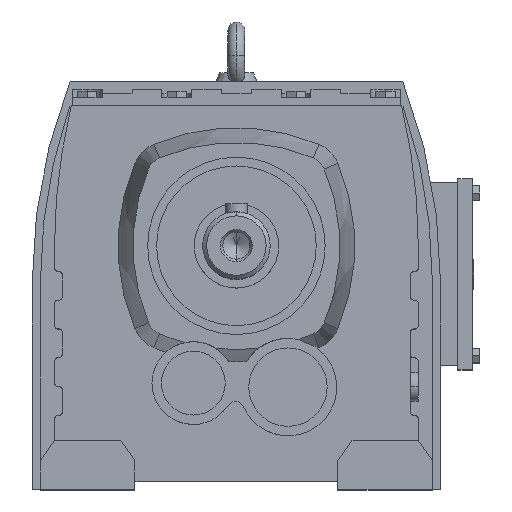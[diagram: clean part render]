
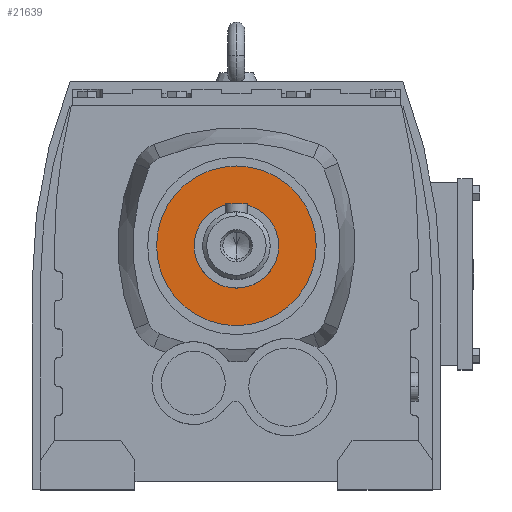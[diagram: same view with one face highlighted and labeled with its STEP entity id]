
A CAD part, top view. The second image highlights one B-rep face of the part: STEP entity #21639.
In plain terms, the highlighted planar face has unit normal (0, 0, 1).
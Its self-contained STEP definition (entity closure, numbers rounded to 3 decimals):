
#17251 = CYLINDRICAL_SURFACE('',#17252,29.531);
#17252 = AXIS2_PLACEMENT_3D('',#17253,#17254,#17255);
#17253 = CARTESIAN_POINT('',(0.,10.1,201.));
#17254 = DIRECTION('',(0.,0.,1.));
#17255 = DIRECTION('',(0.,-1.,0.));
#17281 = CYLINDRICAL_SURFACE('',#17282,29.531);
#17282 = AXIS2_PLACEMENT_3D('',#17283,#17284,#17285);
#17283 = CARTESIAN_POINT('',(0.,10.1,201.));
#17284 = DIRECTION('',(0.,0.,1.));
#17285 = DIRECTION('',(0.,-1.,0.));
#20769 = VERTEX_POINT('',#20770);
#20770 = CARTESIAN_POINT('',(0.,39.631,146.));
#20791 = VERTEX_POINT('',#20792);
#20792 = CARTESIAN_POINT('',(0.,-19.431,146.));
#20811 = EDGE_CURVE('',#20769,#20791,#20812,.T.);
#20812 = SURFACE_CURVE('',#20813,(#20818,#20824),.PCURVE_S1.);
#20813 = CIRCLE('',#20814,29.531);
#20814 = AXIS2_PLACEMENT_3D('',#20815,#20816,#20817);
#20815 = CARTESIAN_POINT('',(0.,10.1,146.));
#20816 = DIRECTION('',(0.,0.,-1.));
#20817 = DIRECTION('',(-1.,0.,0.));
#20818 = PCURVE('',#17251,#20819);
#20819 = DEFINITIONAL_REPRESENTATION('',(#20820),#20823);
#20820 = B_SPLINE_CURVE_WITH_KNOTS('',1,(#20821,#20822),.UNSPECIFIED.,
  .F.,.F.,(2,2),(1.571,4.712),
  .PIECEWISE_BEZIER_KNOTS.);
#20821 = CARTESIAN_POINT('',(3.142,-55.));
#20822 = CARTESIAN_POINT('',(0.,-55.));
#20823 = ( GEOMETRIC_REPRESENTATION_CONTEXT(2) 
PARAMETRIC_REPRESENTATION_CONTEXT() REPRESENTATION_CONTEXT('2D SPACE',''
  ) );
#20824 = PCURVE('',#20825,#20830);
#20825 = PLANE('',#20826);
#20826 = AXIS2_PLACEMENT_3D('',#20827,#20828,#20829);
#20827 = CARTESIAN_POINT('',(-12.739,5.339,146.));
#20828 = DIRECTION('',(0.,0.,-1.));
#20829 = DIRECTION('',(-1.,0.,0.));
#20830 = DEFINITIONAL_REPRESENTATION('',(#20831),#20835);
#20831 = CIRCLE('',#20832,29.531);
#20832 = AXIS2_PLACEMENT_2D('',#20833,#20834);
#20833 = CARTESIAN_POINT('',(-12.739,4.761));
#20834 = DIRECTION('',(1.,0.));
#20835 = ( GEOMETRIC_REPRESENTATION_CONTEXT(2) 
PARAMETRIC_REPRESENTATION_CONTEXT() REPRESENTATION_CONTEXT('2D SPACE',''
  ) );
#20840 = EDGE_CURVE('',#20791,#20769,#20841,.T.);
#20841 = SURFACE_CURVE('',#20842,(#20847,#20853),.PCURVE_S1.);
#20842 = CIRCLE('',#20843,29.531);
#20843 = AXIS2_PLACEMENT_3D('',#20844,#20845,#20846);
#20844 = CARTESIAN_POINT('',(0.,10.1,146.));
#20845 = DIRECTION('',(0.,0.,-1.));
#20846 = DIRECTION('',(-1.,0.,0.));
#20847 = PCURVE('',#17281,#20848);
#20848 = DEFINITIONAL_REPRESENTATION('',(#20849),#20852);
#20849 = B_SPLINE_CURVE_WITH_KNOTS('',1,(#20850,#20851),.UNSPECIFIED.,
  .F.,.F.,(2,2),(4.712,7.854),
  .PIECEWISE_BEZIER_KNOTS.);
#20850 = CARTESIAN_POINT('',(6.283,-55.));
#20851 = CARTESIAN_POINT('',(3.142,-55.));
#20852 = ( GEOMETRIC_REPRESENTATION_CONTEXT(2) 
PARAMETRIC_REPRESENTATION_CONTEXT() REPRESENTATION_CONTEXT('2D SPACE',''
  ) );
#20853 = PCURVE('',#20825,#20854);
#20854 = DEFINITIONAL_REPRESENTATION('',(#20855),#20859);
#20855 = CIRCLE('',#20856,29.531);
#20856 = AXIS2_PLACEMENT_2D('',#20857,#20858);
#20857 = CARTESIAN_POINT('',(-12.739,4.761));
#20858 = DIRECTION('',(1.,0.));
#20859 = ( GEOMETRIC_REPRESENTATION_CONTEXT(2) 
PARAMETRIC_REPRESENTATION_CONTEXT() REPRESENTATION_CONTEXT('2D SPACE',''
  ) );
#21639 = ADVANCED_FACE('',(#21640,#21644),#20825,.F.);
#21640 = FACE_BOUND('',#21641,.T.);
#21641 = EDGE_LOOP('',(#21642,#21643));
#21642 = ORIENTED_EDGE('',*,*,#20840,.F.);
#21643 = ORIENTED_EDGE('',*,*,#20811,.F.);
#21644 = FACE_BOUND('',#21645,.T.);
#21645 = EDGE_LOOP('',(#21646,#21680));
#21646 = ORIENTED_EDGE('',*,*,#21647,.F.);
#21647 = EDGE_CURVE('',#21648,#21650,#21652,.T.);
#21648 = VERTEX_POINT('',#21649);
#21649 = CARTESIAN_POINT('',(0.,-5.525,146.));
#21650 = VERTEX_POINT('',#21651);
#21651 = CARTESIAN_POINT('',(0.,25.725,146.));
#21652 = SURFACE_CURVE('',#21653,(#21658,#21669),.PCURVE_S1.);
#21653 = CIRCLE('',#21654,15.625);
#21654 = AXIS2_PLACEMENT_3D('',#21655,#21656,#21657);
#21655 = CARTESIAN_POINT('',(0.,10.1,146.));
#21656 = DIRECTION('',(0.,0.,1.));
#21657 = DIRECTION('',(-1.,0.,0.));
#21658 = PCURVE('',#20825,#21659);
#21659 = DEFINITIONAL_REPRESENTATION('',(#21660),#21668);
#21660 = ( BOUNDED_CURVE() B_SPLINE_CURVE(2,(#21661,#21662,#21663,#21664
    ,#21665,#21666,#21667),.UNSPECIFIED.,.F.,.F.) 
B_SPLINE_CURVE_WITH_KNOTS((1,2,2,2,2,1),(-2.094,0.,
    2.094,4.189,6.283,8.378),
.UNSPECIFIED.) CURVE() GEOMETRIC_REPRESENTATION_ITEM() 
RATIONAL_B_SPLINE_CURVE((1.,0.5,1.,0.5,1.,0.5,1.)) REPRESENTATION_ITEM(
  '') );
#21661 = CARTESIAN_POINT('',(2.886,4.761));
#21662 = CARTESIAN_POINT('',(2.886,-22.302));
#21663 = CARTESIAN_POINT('',(-20.551,-8.77));
#21664 = CARTESIAN_POINT('',(-43.989,4.761));
#21665 = CARTESIAN_POINT('',(-20.551,18.293));
#21666 = CARTESIAN_POINT('',(2.886,31.825));
#21667 = CARTESIAN_POINT('',(2.886,4.761));
#21668 = ( GEOMETRIC_REPRESENTATION_CONTEXT(2) 
PARAMETRIC_REPRESENTATION_CONTEXT() REPRESENTATION_CONTEXT('2D SPACE',''
  ) );
#21669 = PCURVE('',#21670,#21675);
#21670 = CYLINDRICAL_SURFACE('',#21671,15.625);
#21671 = AXIS2_PLACEMENT_3D('',#21672,#21673,#21674);
#21672 = CARTESIAN_POINT('',(0.,10.1,201.));
#21673 = DIRECTION('',(0.,0.,1.));
#21674 = DIRECTION('',(0.,-1.,0.));
#21675 = DEFINITIONAL_REPRESENTATION('',(#21676),#21679);
#21676 = B_SPLINE_CURVE_WITH_KNOTS('',1,(#21677,#21678),.UNSPECIFIED.,
  .F.,.F.,(2,2),(1.571,4.712),
  .PIECEWISE_BEZIER_KNOTS.);
#21677 = CARTESIAN_POINT('',(0.,-55.));
#21678 = CARTESIAN_POINT('',(3.142,-55.));
#21679 = ( GEOMETRIC_REPRESENTATION_CONTEXT(2) 
PARAMETRIC_REPRESENTATION_CONTEXT() REPRESENTATION_CONTEXT('2D SPACE',''
  ) );
#21680 = ORIENTED_EDGE('',*,*,#21681,.F.);
#21681 = EDGE_CURVE('',#21650,#21648,#21682,.T.);
#21682 = SURFACE_CURVE('',#21683,(#21688,#21699),.PCURVE_S1.);
#21683 = CIRCLE('',#21684,15.625);
#21684 = AXIS2_PLACEMENT_3D('',#21685,#21686,#21687);
#21685 = CARTESIAN_POINT('',(0.,10.1,146.));
#21686 = DIRECTION('',(0.,0.,1.));
#21687 = DIRECTION('',(-1.,0.,0.));
#21688 = PCURVE('',#20825,#21689);
#21689 = DEFINITIONAL_REPRESENTATION('',(#21690),#21698);
#21690 = ( BOUNDED_CURVE() B_SPLINE_CURVE(2,(#21691,#21692,#21693,#21694
    ,#21695,#21696,#21697),.UNSPECIFIED.,.F.,.F.) 
B_SPLINE_CURVE_WITH_KNOTS((1,2,2,2,2,1),(-2.094,0.,
    2.094,4.189,6.283,8.378),
.UNSPECIFIED.) CURVE() GEOMETRIC_REPRESENTATION_ITEM() 
RATIONAL_B_SPLINE_CURVE((1.,0.5,1.,0.5,1.,0.5,1.)) REPRESENTATION_ITEM(
  '') );
#21691 = CARTESIAN_POINT('',(2.886,4.761));
#21692 = CARTESIAN_POINT('',(2.886,-22.302));
#21693 = CARTESIAN_POINT('',(-20.551,-8.77));
#21694 = CARTESIAN_POINT('',(-43.989,4.761));
#21695 = CARTESIAN_POINT('',(-20.551,18.293));
#21696 = CARTESIAN_POINT('',(2.886,31.825));
#21697 = CARTESIAN_POINT('',(2.886,4.761));
#21698 = ( GEOMETRIC_REPRESENTATION_CONTEXT(2) 
PARAMETRIC_REPRESENTATION_CONTEXT() REPRESENTATION_CONTEXT('2D SPACE',''
  ) );
#21699 = PCURVE('',#21700,#21705);
#21700 = CYLINDRICAL_SURFACE('',#21701,15.625);
#21701 = AXIS2_PLACEMENT_3D('',#21702,#21703,#21704);
#21702 = CARTESIAN_POINT('',(0.,10.1,201.));
#21703 = DIRECTION('',(0.,0.,1.));
#21704 = DIRECTION('',(0.,-1.,0.));
#21705 = DEFINITIONAL_REPRESENTATION('',(#21706),#21709);
#21706 = B_SPLINE_CURVE_WITH_KNOTS('',1,(#21707,#21708),.UNSPECIFIED.,
  .F.,.F.,(2,2),(4.712,7.854),
  .PIECEWISE_BEZIER_KNOTS.);
#21707 = CARTESIAN_POINT('',(3.142,-55.));
#21708 = CARTESIAN_POINT('',(6.283,-55.));
#21709 = ( GEOMETRIC_REPRESENTATION_CONTEXT(2) 
PARAMETRIC_REPRESENTATION_CONTEXT() REPRESENTATION_CONTEXT('2D SPACE',''
  ) );
